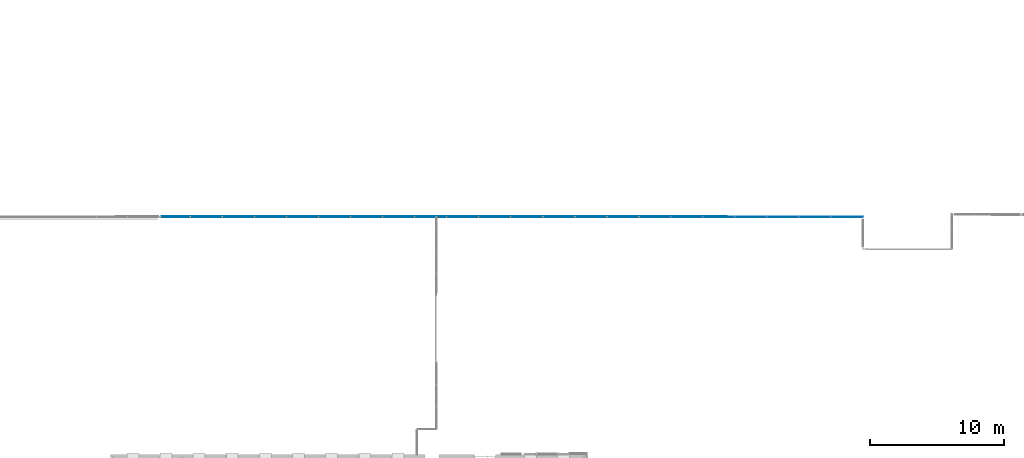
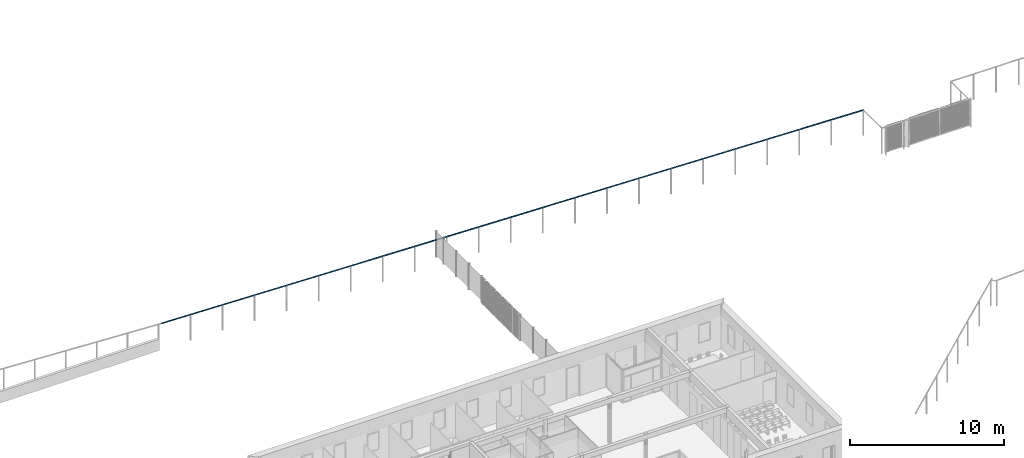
# One storey, part 67 of 91: 1 building element part, 1 element without a shape of its own.
"""IFC2X3 building model written with IfcOpenShell, lengths in metres."""

import ifcopenshell
import ifcopenshell.guid

model = None  # the IFC model being written
_history = None  # IfcOwnerHistory: only IFC2X3 demands one
_inside = {}  # id of a spatial element -> (the spatial element, [elements in it])
_under = {}  # id of a project, library or spatial element -> (it, [spatial elements below it])
_declared = {}  # id of a project -> (the project, [libraries it declares])
_typed = {}  # id of a type object -> (the type object, [elements of that type])
_made_of = {}  # id of a material, layer set ... -> (it, [elements and type objects made of it])


def new_model(schema):
    """Start an empty IFC model of exactly this schema.

    Asked for "IFC4X3", IfcOpenShell would pick the latest addendum, in which some entities
    have other attributes; the version numbers below select the first issue.
    IFC2X3 requires an IfcOwnerHistory on every rooted entity: one is made here for all.
    """
    global model, _history
    if schema == "IFC4X3":
        model = ifcopenshell.file(schema_version=(4, 3, 0, 0))
    else:
        model = ifcopenshell.file(schema=schema)
    _inside.clear()
    _under.clear()
    _declared.clear()
    _typed.clear()
    _made_of.clear()
    _history = None
    if model.schema == "IFC2X3":
        org = make("IfcOrganization", Name="unknown")
        user = make(
            "IfcPersonAndOrganization",
            ThePerson=make("IfcPerson", FamilyName="unknown"),
            TheOrganization=org,
        )
        app = make(
            "IfcApplication",
            ApplicationDeveloper=org,
            Version="unknown",
            ApplicationFullName="unknown",
            ApplicationIdentifier="unknown",
        )
        _history = make(
            "IfcOwnerHistory",
            OwningUser=user,
            OwningApplication=app,
            ChangeAction="ADDED",
            CreationDate=0,
        )
    return model


def make(cls, **values):
    """One entity of the class cls with the attributes given. An attribute that is None is left unset."""
    return model.create_entity(
        cls, **{name: value for name, value in values.items() if value is not None}
    )


def entity(cls, *values):
    """Any entity or typed value of the class cls, its attributes in the order of the schema. None: left unset."""
    e = model.create_entity(cls)
    for i, value in enumerate(values):
        if value is not None:
            e[i] = value
    return e


def rooted(cls, **values):
    """An entity with a GlobalId (a new one), such as an element, a storey or a relation."""
    return make(cls, GlobalId=ifcopenshell.guid.new(), OwnerHistory=_history, **values)


def si_unit(unit_type, name, prefix=None):
    """IfcSIUnit, for example si_unit("LENGTHUNIT", "METRE", prefix="MILLI")."""
    return make("IfcSIUnit", UnitType=unit_type, Prefix=prefix, Name=name)


def converted_unit(unit_type, name, factor, base, dimensions=None, offset=None):
    """IfcConversionBasedUnit, such as the inch: factor (a typed value) times the base unit."""
    return make(
        "IfcConversionBasedUnit"
        if offset is None
        else "IfcConversionBasedUnitWithOffset",
        ConversionOffset=offset,
        Dimensions=None
        if dimensions is None
        else entity("IfcDimensionalExponents", *dimensions),
        UnitType=unit_type,
        Name=name,
        ConversionFactor=make(
            "IfcMeasureWithUnit", ValueComponent=factor, UnitComponent=base
        ),
    )


def derived_unit(unit_type, elements):
    """IfcDerivedUnit: a product of units, each with its exponent."""
    return make(
        "IfcDerivedUnit",
        Elements=[
            make("IfcDerivedUnitElement", Unit=unit, Exponent=power)
            for unit, power in elements
        ],
        UnitType=unit_type,
    )


def money_unit(currency):
    """IfcMonetaryUnit."""
    return make("IfcMonetaryUnit", Currency=currency)


def assignment(units):
    """IfcUnitAssignment: the units of a project."""
    return None if units is None else make("IfcUnitAssignment", Units=units)


def point(xyz):
    """IfcCartesianPoint."""
    return None if xyz is None else make("IfcCartesianPoint", Coordinates=xyz)


def direction(xyz):
    """IfcDirection."""
    return None if xyz is None else make("IfcDirection", DirectionRatios=xyz)


def frame(location, z_axis=None, x_axis=None):
    """IfcAxis2Placement3D, a coordinate frame: its origin and axes. An axis left out is left unset."""
    return make(
        "IfcAxis2Placement3D",
        Location=point(location),
        Axis=direction(z_axis),
        RefDirection=direction(x_axis),
    )


def origin_with_axes():
    """The frame at (0, 0, 0) with the z axis (0, 0, 1) and the x axis (1, 0, 0) written out."""
    return frame((0.0, 0.0, 0.0), z_axis=(0.0, 0.0, 1.0), x_axis=(1.0, 0.0, 0.0))


def place(relative_to, where):
    """IfcLocalPlacement: puts the frame where relative to a parent placement (None: the world)."""
    return make(
        "IfcLocalPlacement", PlacementRelTo=relative_to, RelativePlacement=where
    )


def context(
    kind, dimensions, precision=None, world=None, true_north=None, identifier=None
):
    """IfcGeometricRepresentationContext, for example the 3D "Model" context."""
    return make(
        "IfcGeometricRepresentationContext",
        ContextIdentifier=identifier,
        ContextType=kind,
        CoordinateSpaceDimension=dimensions,
        Precision=precision,
        WorldCoordinateSystem=world,
        TrueNorth=true_north,
    )


def subcontext(parent, identifier, kind, view, scale=None):
    """IfcGeometricRepresentationSubContext, for example "Body" below "Model"."""
    return make(
        "IfcGeometricRepresentationSubContext",
        ContextIdentifier=identifier,
        ContextType=kind,
        ParentContext=parent,
        TargetScale=scale,
        TargetView=view,
    )


def project(units=None, contexts=None):
    """IfcProject with its units and contexts."""
    return rooted(
        "IfcProject",
        Name="project",
        RepresentationContexts=contexts,
        UnitsInContext=assignment(units),
    )


def spatial(cls, under=None, at=None, **own):
    """A site, building, storey or space (cls), placed at a placement, below another one or the project."""
    s = rooted(cls, ObjectPlacement=at, **own)
    if under is not None:
        _under.setdefault(under.id(), (under, []))[1].append(s)
    return s


def faces_of(points, faces, orient=None, outer=None):
    """IfcFace entities. A face is a list of loops; a loop is a list of indices into points, from 0.

    orient and outer hold one flag for each loop. By default every Orientation is true, the
    first loop of a face is its IfcFaceOuterBound and the others are IfcFaceBound.
    """
    made = []
    for i, loops in enumerate(faces):
        bounds = []
        for j, loop in enumerate(loops):
            is_outer = j == 0 if outer is None else outer[i][j]
            bounds.append(
                make(
                    "IfcFaceOuterBound" if is_outer else "IfcFaceBound",
                    Bound=make("IfcPolyLoop", Polygon=[points[k] for k in loop]),
                    Orientation=True if orient is None else orient[i][j],
                )
            )
        made.append(make("IfcFace", Bounds=bounds))
    return made


def faceted_brep(points, faces, orient=None, outer=None, voids=None):
    """IfcFacetedBrep: a solid bounded by flat faces; with voids (closed shells), ...WithVoids."""
    shared = [point(p) for p in points]
    hull = make("IfcClosedShell", CfsFaces=faces_of(shared, faces, orient, outer))
    if voids is None:
        return make("IfcFacetedBrep", Outer=hull)
    return make(
        "IfcFacetedBrepWithVoids",
        Outer=hull,
        Voids=[
            make(cls, CfsFaces=faces_of(shared, fs, o, b)) for cls, fs, o, b in voids
        ],
    )


def shape(context_of_items, identifier, shape_type, items):
    """IfcShapeRepresentation: the items that make up one representation, for example the "Body"."""
    return make(
        "IfcShapeRepresentation",
        ContextOfItems=context_of_items,
        RepresentationIdentifier=identifier,
        RepresentationType=shape_type,
        Items=items,
    )


def material(Name=None, Category=None):
    """IfcMaterial."""
    return make("IfcMaterial", Name=Name, Category=Category)


def made_of(thing, what):
    """Note that an element or type object is made of a material, layer set ...; save() writes the relation."""
    if what is not None:
        _made_of.setdefault(what.id(), (what, []))[1].append(thing)
    return thing


def type_object(cls, material=None, **own):
    """A type object (cls), such as IfcWallType, which elements share."""
    return made_of(rooted(cls, **own), material)


def element(
    cls,
    number,
    at=None,
    inside=None,
    cuts=None,
    type_object=None,
    material=None,
    context=None,
    identifier="Body",
    shape_type=None,
    held_by="IfcProductDefinitionShape",
    body=None,
    shapes=None,
    **own,
):
    """One element of the class cls, such as IfcWall. Its Tag is "e" and its number.

    at: its placement. inside: the storey or other place that contains it. cuts: it is an
    opening in that element (IfcRelVoidsElement). A single representation is given by context,
    identifier, shape_type and body (its items); several are given by shapes. held_by: the class
    of the entity that holds the representations. save() writes the other relations.
    """
    e = rooted(cls, Tag="e%d" % number, ObjectPlacement=at, **own)
    if body is not None:
        shapes = [shape(context, identifier, shape_type, body)]
    if shapes is not None:
        e.Representation = make(held_by, Representations=shapes)
    if inside is not None:
        _inside.setdefault(inside.id(), (inside, []))[1].append(e)
    if cuts is not None:
        rooted(
            "IfcRelVoidsElement", RelatingBuildingElement=cuts, RelatedOpeningElement=e
        )
    if type_object is not None:
        _typed.setdefault(type_object.id(), (type_object, []))[1].append(e)
    return made_of(e, material)


def aggregate(whole, parts):
    """IfcRelAggregates: a whole, such as a stair, and the parts it consists of."""
    return rooted("IfcRelAggregates", RelatingObject=whole, RelatedObjects=parts)


def save(model, path):
    """Write the relations noted so far, then the file.

    IfcRelAggregates (storeys below a building ...), IfcRelContainedInSpatialStructure (elements
    in a storey), IfcRelDefinesByType, IfcRelAssociatesMaterial and IfcRelDeclares: one each for
    every whole, place, type object, material and project.
    """
    for whole, parts in _under.values():
        aggregate(whole, parts)
    for where, things in _inside.values():
        rooted(
            "IfcRelContainedInSpatialStructure",
            RelatedElements=things,
            RelatingStructure=where,
        )
    for kind, things in _typed.values():
        rooted("IfcRelDefinesByType", RelatedObjects=things, RelatingType=kind)
    for what, things in _made_of.values():
        rooted("IfcRelAssociatesMaterial", RelatedObjects=things, RelatingMaterial=what)
    for by, libraries in _declared.values():
        rooted("IfcRelDeclares", RelatingContext=by, RelatedDefinitions=libraries)
    model.write(path)


model = new_model("IFC2X3")

# Units and contexts
model_context = context("Model", 3, precision=1e-05, world=origin_with_axes(), true_north=direction((0.0, 1.0)))
body_context = subcontext(model_context, "Body", "Model", "MODEL_VIEW")
ifc_project = project(units=[si_unit("LENGTHUNIT", "METRE"), si_unit("AREAUNIT", "SQUARE_METRE"), si_unit("VOLUMEUNIT", "CUBIC_METRE"), converted_unit("PLANEANGLEUNIT", "DEGREE", entity("IfcPlaneAngleMeasure", 0.0174532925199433), si_unit("PLANEANGLEUNIT", "RADIAN"), dimensions=[0, 0, 0, 0, 0, 0, 0]), money_unit("EUR"), converted_unit("TIMEUNIT", "Year", entity("IfcTimeMeasure", 31557600.0), si_unit("TIMEUNIT", "SECOND"), dimensions=[0, 0, 1, 0, 0, 0, 0]), si_unit("MASSUNIT", "GRAM", prefix="KILO"), si_unit("THERMODYNAMICTEMPERATUREUNIT", "DEGREE_CELSIUS"), si_unit("LUMINOUSINTENSITYUNIT", "LUMEN"), si_unit("ENERGYUNIT", "JOULE", prefix="MEGA"), derived_unit("THERMALCONDUCTANCEUNIT", [(si_unit("POWERUNIT", "WATT"), 1), (si_unit("LENGTHUNIT", "METRE"), -1), (si_unit("THERMODYNAMICTEMPERATUREUNIT", "KELVIN"), -1)]), derived_unit("SPECIFICHEATCAPACITYUNIT", [(si_unit("ENERGYUNIT", "JOULE"), 1), (si_unit("MASSUNIT", "GRAM", prefix="KILO"), -1), (si_unit("THERMODYNAMICTEMPERATUREUNIT", "KELVIN"), -1)]), derived_unit("MASSDENSITYUNIT", [(si_unit("MASSUNIT", "GRAM", prefix="KILO"), 1), (si_unit("VOLUMEUNIT", "CUBIC_METRE"), -1)])], contexts=[model_context])

# Site, building, storey
site_placement = place(None, origin_with_axes())
site = spatial("IfcSite", under=ifc_project, at=site_placement, Name="Site", CompositionType="ELEMENT")
building_placement = place(site_placement, origin_with_axes())
building = spatial("IfcBuilding", under=site, at=building_placement, Name="Bâtiment", CompositionType="ELEMENT")
storey_placement = place(building_placement, origin_with_axes())
storey = spatial("IfcBuildingStorey", under=building, at=storey_placement, Name="RDC", CompositionType="ELEMENT", Elevation=0.0)

# Proxy, building element part
building_element_proxy_type = type_object("IfcBuildingElementProxyType", Name="Type de garde-corps", PredefinedType="NOTDEFINED")
proxy_placement = place(storey_placement, frame((79.63337255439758, 3.614023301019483, -2.37161404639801), z_axis=(0.0, 0.0, 1.0), x_axis=(1.0, 0.0, 0.0)))
proxy = element("IfcBuildingElementProxy", 1, at=proxy_placement, inside=storey, type_object=building_element_proxy_type, Name="RAMPE-004")
ifc_material = material(Name="Acier Galva")
building_element_part_placement = place(proxy_placement, origin_with_axes())
building_element_part = element("IfcBuildingElementPart", 2, at=building_element_part_placement, material=ifc_material, Name="Acier Galva", context=body_context, shape_type="Brep", body=[
    faceted_brep([(1.365545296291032, 3.404195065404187, 2.809370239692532), (1.364831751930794, 3.404909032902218, 2.759375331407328), (-51.25530849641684, 3.414307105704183, 4.261574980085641), (1.315545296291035, 3.354224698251, 2.809370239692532), (1.314831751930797, 3.354938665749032, 2.759375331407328), (-51.25531775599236, 3.36430710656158, 4.261574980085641), (-51.20530849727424, 3.414297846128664, 4.31016728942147), (-51.20531775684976, 3.364297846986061, 4.31016728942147)], [[[0, 1, 2]], [[0, 3, 4, 1]], [[1, 5, 2]], [[0, 2, 6]], [[3, 0, 6]], [[4, 3, 7]], [[1, 4, 5]], [[6, 2, 5, 7]], [[3, 6, 7]], [[4, 7, 5]]]),
])
aggregate(proxy, [building_element_part])

save(model, "model.ifc")
